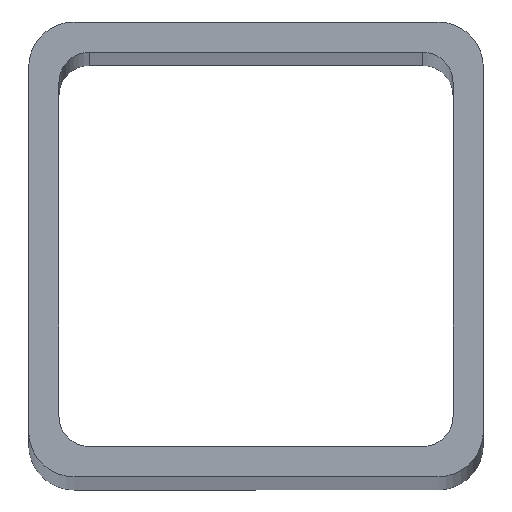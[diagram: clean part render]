
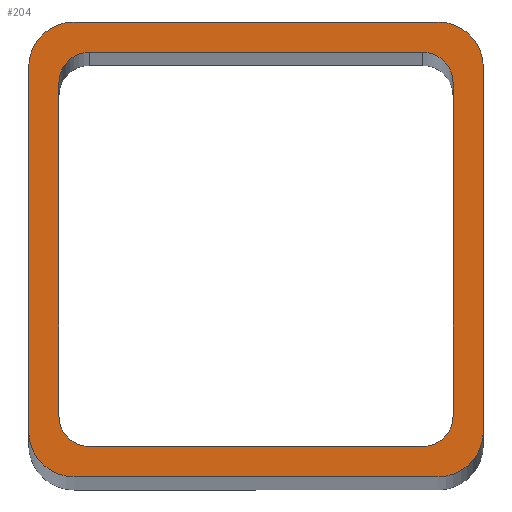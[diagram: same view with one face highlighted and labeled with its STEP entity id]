
A CAD part, top view. The second image highlights one B-rep face of the part: STEP entity #204.
In plain terms, the highlighted planar face has unit normal (0, 0, 1).
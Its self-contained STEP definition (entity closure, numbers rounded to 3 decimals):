
#4 = ORIENTED_EDGE ( 'NONE', *, *, #160, .T. ) ;
#9 = AXIS2_PLACEMENT_3D ( 'NONE', #372, #577, #417 ) ;
#20 = VECTOR ( 'NONE', #442, 1000. ) ;
#22 = CIRCLE ( 'NONE', #587, 2. ) ;
#23 = CARTESIAN_POINT ( 'NONE',  ( 11., -11., 250. ) ) ;
#24 = DIRECTION ( 'NONE',  ( 1., 0., 0. ) ) ;
#25 = ORIENTED_EDGE ( 'NONE', *, *, #107, .T. ) ;
#27 = LINE ( 'NONE', #170, #20 ) ;
#30 = CARTESIAN_POINT ( 'NONE',  ( 11., 11., 250. ) ) ;
#42 = EDGE_CURVE ( 'NONE', #378, #509, #373, .T. ) ;
#45 = CARTESIAN_POINT ( 'NONE',  ( -13., 11., 250. ) ) ;
#52 = CARTESIAN_POINT ( 'NONE',  ( 12., 12., 250. ) ) ;
#54 = DIRECTION ( 'NONE',  ( 0., -1., 0. ) ) ;
#57 = VERTEX_POINT ( 'NONE', #45 ) ;
#65 = ORIENTED_EDGE ( 'NONE', *, *, #365, .T. ) ;
#71 = VERTEX_POINT ( 'NONE', #190 ) ;
#72 = LINE ( 'NONE', #388, #375 ) ;
#77 = LINE ( 'NONE', #531, #274 ) ;
#81 = DIRECTION ( 'NONE',  ( 0., 0., -1. ) ) ;
#84 = DIRECTION ( 'NONE',  ( 0., 1., 0. ) ) ;
#86 = ORIENTED_EDGE ( 'NONE', *, *, #347, .T. ) ;
#91 = VECTOR ( 'NONE', #162, 1000. ) ;
#96 = VERTEX_POINT ( 'NONE', #134 ) ;
#103 = ORIENTED_EDGE ( 'NONE', *, *, #237, .F. ) ;
#107 = EDGE_CURVE ( 'NONE', #57, #330, #484, .T. ) ;
#109 = CARTESIAN_POINT ( 'NONE',  ( -12., 12., 250. ) ) ;
#114 = CARTESIAN_POINT ( 'NONE',  ( -11., 13., 250. ) ) ;
#120 = EDGE_CURVE ( 'NONE', #551, #330, #27, .T. ) ;
#124 = AXIS2_PLACEMENT_3D ( 'NONE', #109, #208, #252 ) ;
#127 = FACE_BOUND ( 'NONE', #154, .T. ) ;
#134 = CARTESIAN_POINT ( 'NONE',  ( 11., -13., 250. ) ) ;
#138 = CARTESIAN_POINT ( 'NONE',  ( 12., -15., 250. ) ) ;
#150 = DIRECTION ( 'NONE',  ( 1., 0., 0. ) ) ;
#153 = CARTESIAN_POINT ( 'NONE',  ( -12., -15., 250. ) ) ;
#154 = EDGE_LOOP ( 'NONE', ( #207, #168, #103, #432, #428, #25, #374, #4 ) ) ;
#157 = CARTESIAN_POINT ( 'NONE',  ( 15., 15., 250. ) ) ;
#158 = DIRECTION ( 'NONE',  ( 0., 0., 1. ) ) ;
#160 = EDGE_CURVE ( 'NONE', #551, #71, #462, .T. ) ;
#162 = DIRECTION ( 'NONE',  ( -1., 0., 0. ) ) ;
#165 = VERTEX_POINT ( 'NONE', #226 ) ;
#168 = ORIENTED_EDGE ( 'NONE', *, *, #452, .T. ) ;
#170 = CARTESIAN_POINT ( 'NONE',  ( 13., 13., 250. ) ) ;
#173 = PLANE ( 'NONE',  #532 ) ;
#174 = LINE ( 'NONE', #538, #358 ) ;
#183 = DIRECTION ( 'NONE',  ( 0., 1., 0. ) ) ;
#190 = CARTESIAN_POINT ( 'NONE',  ( 13., 11., 250. ) ) ;
#200 = LINE ( 'NONE', #342, #421 ) ;
#204 = ADVANCED_FACE ( 'NONE', ( #449, #127 ), #173, .T. ) ;
#205 = CARTESIAN_POINT ( 'NONE',  ( -13., -11., 250. ) ) ;
#207 = ORIENTED_EDGE ( 'NONE', *, *, #420, .F. ) ;
#208 = DIRECTION ( 'NONE',  ( 0., 0., 1. ) ) ;
#226 = CARTESIAN_POINT ( 'NONE',  ( 13., -11., 250. ) ) ;
#231 = AXIS2_PLACEMENT_3D ( 'NONE', #262, #81, #346 ) ;
#237 = EDGE_CURVE ( 'NONE', #537, #96, #77, .T. ) ;
#238 = CARTESIAN_POINT ( 'NONE',  ( 11., 13., 250. ) ) ;
#249 = LINE ( 'NONE', #157, #91 ) ;
#250 = VERTEX_POINT ( 'NONE', #268 ) ;
#252 = DIRECTION ( 'NONE',  ( 1., 0., 0. ) ) ;
#262 = CARTESIAN_POINT ( 'NONE',  ( -11., 11., 250. ) ) ;
#264 = CARTESIAN_POINT ( 'NONE',  ( -11., -13., 250. ) ) ;
#268 = CARTESIAN_POINT ( 'NONE',  ( -12., 15., 250. ) ) ;
#269 = DIRECTION ( 'NONE',  ( 0., 0., -1. ) ) ;
#274 = VECTOR ( 'NONE', #489, 1000. ) ;
#276 = EDGE_CURVE ( 'NONE', #555, #522, #357, .T. ) ;
#277 = VERTEX_POINT ( 'NONE', #205 ) ;
#280 = ORIENTED_EDGE ( 'NONE', *, *, #386, .T. ) ;
#287 = EDGE_CURVE ( 'NONE', #509, #250, #249, .T. ) ;
#288 = DIRECTION ( 'NONE',  ( 1., 0., 0. ) ) ;
#291 = EDGE_CURVE ( 'NONE', #397, #555, #200, .T. ) ;
#301 = DIRECTION ( 'NONE',  ( 0., 0., -1. ) ) ;
#305 = AXIS2_PLACEMENT_3D ( 'NONE', #339, #465, #288 ) ;
#309 = CARTESIAN_POINT ( 'NONE',  ( 12., 15., 250. ) ) ;
#316 = CARTESIAN_POINT ( 'NONE',  ( 15., -15., 250. ) ) ;
#318 = ORIENTED_EDGE ( 'NONE', *, *, #276, .T. ) ;
#330 = VERTEX_POINT ( 'NONE', #114 ) ;
#339 = CARTESIAN_POINT ( 'NONE',  ( -12., -12., 250. ) ) ;
#342 = CARTESIAN_POINT ( 'NONE',  ( 15., -15., 250. ) ) ;
#345 = CARTESIAN_POINT ( 'NONE',  ( -11., -11., 250. ) ) ;
#346 = DIRECTION ( 'NONE',  ( 1., 0., 0. ) ) ;
#347 = EDGE_CURVE ( 'NONE', #575, #397, #472, .T. ) ;
#353 = CARTESIAN_POINT ( 'NONE',  ( 15., 15., 250. ) ) ;
#354 = DIRECTION ( 'NONE',  ( 1., 0., 0. ) ) ;
#357 = CIRCLE ( 'NONE', #9, 3. ) ;
#358 = VECTOR ( 'NONE', #399, 1000. ) ;
#360 = CARTESIAN_POINT ( 'NONE',  ( -15., -12., 250. ) ) ;
#365 = EDGE_CURVE ( 'NONE', #418, #575, #520, .T. ) ;
#367 = ORIENTED_EDGE ( 'NONE', *, *, #291, .T. ) ;
#372 = CARTESIAN_POINT ( 'NONE',  ( 12., -12., 250. ) ) ;
#373 = CIRCLE ( 'NONE', #433, 3. ) ;
#374 = ORIENTED_EDGE ( 'NONE', *, *, #120, .F. ) ;
#375 = VECTOR ( 'NONE', #84, 1000. ) ;
#378 = VERTEX_POINT ( 'NONE', #419 ) ;
#382 = ORIENTED_EDGE ( 'NONE', *, *, #548, .T. ) ;
#386 = EDGE_CURVE ( 'NONE', #250, #418, #498, .T. ) ;
#388 = CARTESIAN_POINT ( 'NONE',  ( 13., -13., 250. ) ) ;
#391 = DIRECTION ( 'NONE',  ( 0., 0., -1. ) ) ;
#394 = CARTESIAN_POINT ( 'NONE',  ( 15., -12., 250. ) ) ;
#397 = VERTEX_POINT ( 'NONE', #153 ) ;
#399 = DIRECTION ( 'NONE',  ( 0., -1., 0. ) ) ;
#400 = DIRECTION ( 'NONE',  ( 1., 0., 0. ) ) ;
#407 = DIRECTION ( 'NONE',  ( 1., 0., 0. ) ) ;
#416 = ORIENTED_EDGE ( 'NONE', *, *, #42, .T. ) ;
#417 = DIRECTION ( 'NONE',  ( 1., 0., 0. ) ) ;
#418 = VERTEX_POINT ( 'NONE', #439 ) ;
#419 = CARTESIAN_POINT ( 'NONE',  ( 15., 12., 250. ) ) ;
#420 = EDGE_CURVE ( 'NONE', #165, #71, #72, .T. ) ;
#421 = VECTOR ( 'NONE', #150, 1000. ) ;
#428 = ORIENTED_EDGE ( 'NONE', *, *, #490, .F. ) ;
#432 = ORIENTED_EDGE ( 'NONE', *, *, #477, .T. ) ;
#433 = AXIS2_PLACEMENT_3D ( 'NONE', #52, #158, #407 ) ;
#435 = VECTOR ( 'NONE', #183, 1000. ) ;
#439 = CARTESIAN_POINT ( 'NONE',  ( -15., 12., 250. ) ) ;
#442 = DIRECTION ( 'NONE',  ( -1., 0., 0. ) ) ;
#448 = LINE ( 'NONE', #316, #435 ) ;
#449 = FACE_OUTER_BOUND ( 'NONE', #584, .T. ) ;
#452 = EDGE_CURVE ( 'NONE', #165, #96, #576, .T. ) ;
#455 = VECTOR ( 'NONE', #54, 1000. ) ;
#456 = ORIENTED_EDGE ( 'NONE', *, *, #287, .T. ) ;
#462 = CIRCLE ( 'NONE', #574, 2. ) ;
#465 = DIRECTION ( 'NONE',  ( 0., 0., 1. ) ) ;
#468 = CARTESIAN_POINT ( 'NONE',  ( -15., -15., 250. ) ) ;
#472 = CIRCLE ( 'NONE', #305, 3. ) ;
#477 = EDGE_CURVE ( 'NONE', #537, #277, #22, .T. ) ;
#484 = CIRCLE ( 'NONE', #231, 2. ) ;
#489 = DIRECTION ( 'NONE',  ( 1., 0., 0. ) ) ;
#490 = EDGE_CURVE ( 'NONE', #57, #277, #174, .T. ) ;
#496 = DIRECTION ( 'NONE',  ( 1., 0., 0. ) ) ;
#498 = CIRCLE ( 'NONE', #124, 3. ) ;
#509 = VERTEX_POINT ( 'NONE', #309 ) ;
#520 = LINE ( 'NONE', #468, #455 ) ;
#522 = VERTEX_POINT ( 'NONE', #394 ) ;
#531 = CARTESIAN_POINT ( 'NONE',  ( 13., -13., 250. ) ) ;
#532 = AXIS2_PLACEMENT_3D ( 'NONE', #353, #539, #400 ) ;
#537 = VERTEX_POINT ( 'NONE', #264 ) ;
#538 = CARTESIAN_POINT ( 'NONE',  ( -13., -13., 250. ) ) ;
#539 = DIRECTION ( 'NONE',  ( 0., 0., 1. ) ) ;
#548 = EDGE_CURVE ( 'NONE', #522, #378, #448, .T. ) ;
#550 = AXIS2_PLACEMENT_3D ( 'NONE', #23, #391, #496 ) ;
#551 = VERTEX_POINT ( 'NONE', #238 ) ;
#555 = VERTEX_POINT ( 'NONE', #138 ) ;
#574 = AXIS2_PLACEMENT_3D ( 'NONE', #30, #301, #24 ) ;
#575 = VERTEX_POINT ( 'NONE', #360 ) ;
#576 = CIRCLE ( 'NONE', #550, 2. ) ;
#577 = DIRECTION ( 'NONE',  ( 0., 0., 1. ) ) ;
#584 = EDGE_LOOP ( 'NONE', ( #65, #86, #367, #318, #382, #416, #456, #280 ) ) ;
#587 = AXIS2_PLACEMENT_3D ( 'NONE', #345, #269, #354 ) ;
